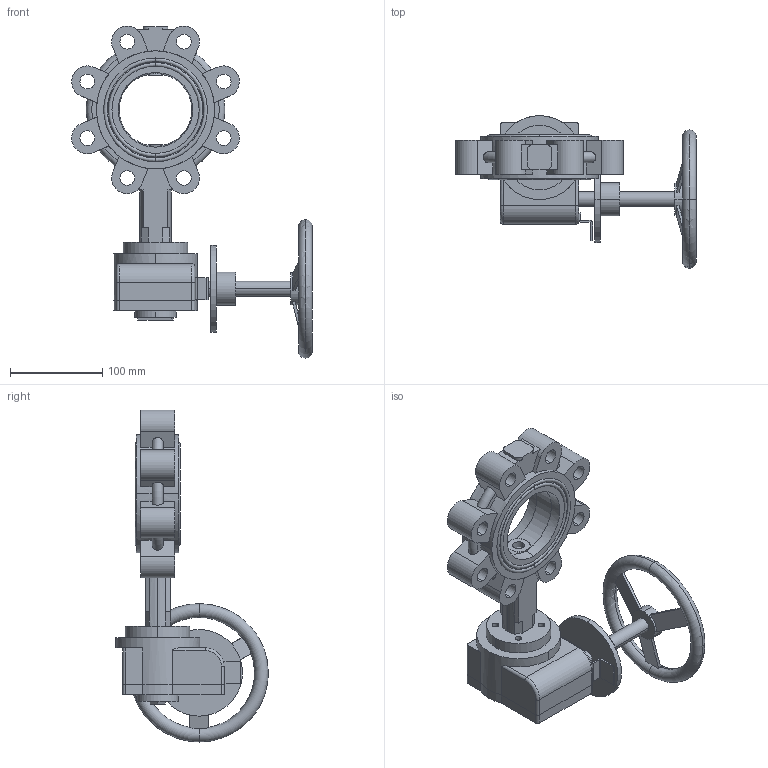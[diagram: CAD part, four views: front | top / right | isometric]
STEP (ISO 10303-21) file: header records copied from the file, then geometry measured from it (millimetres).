
FILE_DESCRIPTION (( 'STEP AP203' ), '1' );
FILE_NAME ('DN80凸耳涡轮头.STEP', '2026-05-21T08:28:00', ( '微软用户' ), ( '微软中国' ), 'SwSTEP 2.0', 'SolidWorks 2024', '' );
FILE_SCHEMA (( 'CONFIG_CONTROL_DESIGN' ));
Length unit declared in the file: millimetre
Products named in the file (4): DN80凸耳涡轮头; 80凸耳，; 3寸涡轮头; 衬胶3寸
Assembly tree (3 placements, depth 2):
  DN80凸耳涡轮头
    80凸耳，
    衬胶3寸
    3寸涡轮头
Bounding box: 260.91 x 165.5 x 359.89 mm (x, y, z)
Volume: 1489756.1 mm3; surface area: 296858.3 mm2
Topology: 6 solids, 6 shells, 316 faces, 831 edges, 542 vertices
Faces by surface type: plane 161, cylinder 123, torus 20, cone 12
Entity records: 11161 total; most frequent: CARTESIAN_POINT 2685, DIRECTION 1751, ORIENTED_EDGE 1658, EDGE_CURVE 829, AXIS2_PLACEMENT_3D 666, VERTEX_POINT 542, LINE 419, VECTOR 419
